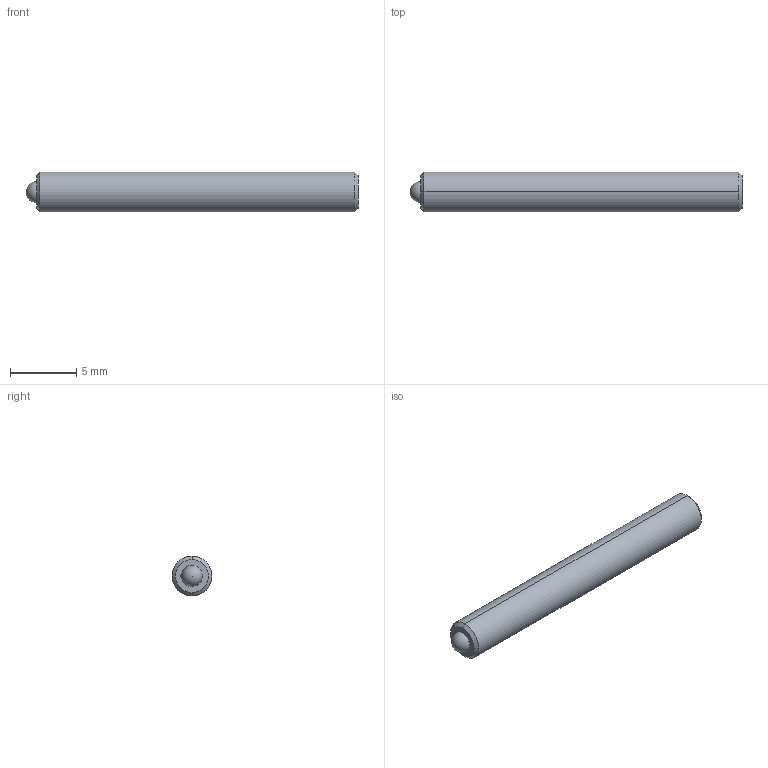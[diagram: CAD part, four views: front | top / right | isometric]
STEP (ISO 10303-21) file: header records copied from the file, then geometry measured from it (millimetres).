
FILE_DESCRIPTION (( 'STEP AP214' ), '1' );
FILE_NAME ('TS3-20-25-HV.STEP', '2013-05-10T16:19:10', ( 'workpc' ), ( 'Microsoft' ), 'SwSTEP 2.0', 'SolidWorks 2013', '' );
FILE_SCHEMA (( 'AUTOMOTIVE_DESIGN' ));
Length unit declared in the file: millimetre
Products named in the file (1): TS3-20-25-HV
Bounding box: 25 x 3 x 3 mm (x, y, z)
Volume: 167.1 mm3; surface area: 261.8 mm2
Topology: 2 solids, 2 shells, 24 faces, 57 edges, 37 vertices
Faces by surface type: plane 10, cylinder 8, cone 4, sphere 2
Entity records: 727 total; most frequent: DIRECTION 124, CARTESIAN_POINT 111, ORIENTED_EDGE 104, EDGE_CURVE 52, AXIS2_PLACEMENT_3D 47, VERTEX_POINT 34, LINE 30, VECTOR 30
